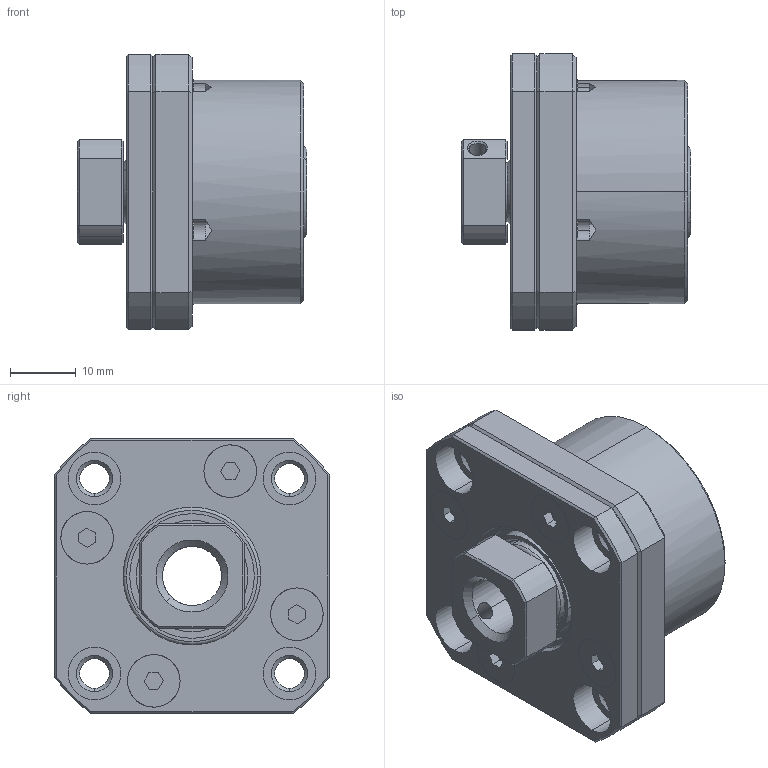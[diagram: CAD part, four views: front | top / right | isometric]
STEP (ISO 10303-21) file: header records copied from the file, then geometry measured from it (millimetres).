
FILE_DESCRIPTION (( 'STEP AP203' ), '1' );
FILE_NAME ('FK10²Õ¦XA.STEP', '2017-12-28T05:37:20', ( '' ), ( '' ), 'SwSTEP 2.0', 'SolidWorks 2017', '' );
FILE_SCHEMA (( 'CONFIG_CONTROL_DESIGN' ));
Length unit declared in the file: millimetre
Products named in the file (1): FK10組合A
Bounding box: 35 x 42 x 42 mm (x, y, z)
Surface area: 12854.6 mm2 (no closed solid volume)
Topology: 0 solids, 18 shells, 242 faces, 642 edges, 419 vertices
Faces by surface type: plane 85, cylinder 71, cone 64, torus 18, bspline 4
Entity records: 8168 total; most frequent: CARTESIAN_POINT 2009, DIRECTION 1343, ORIENTED_EDGE 1149, EDGE_CURVE 642, AXIS2_PLACEMENT_3D 547, VERTEX_POINT 419, CIRCLE 308, EDGE_LOOP 293
